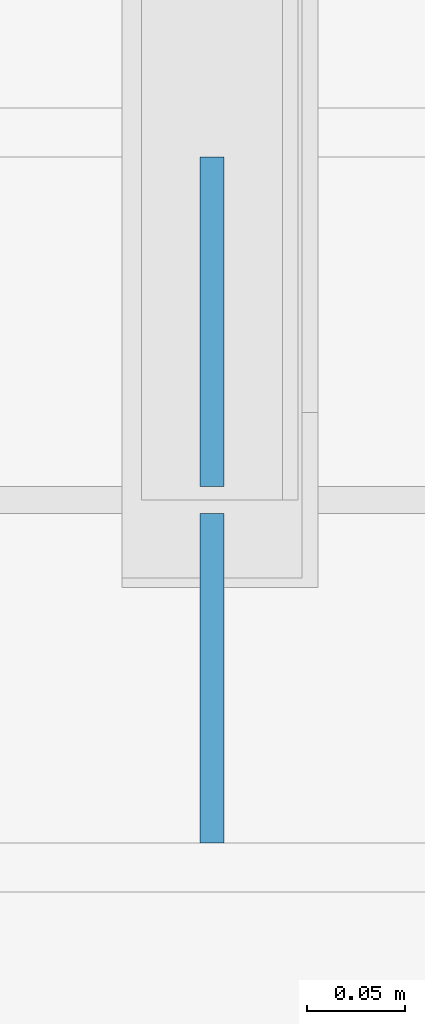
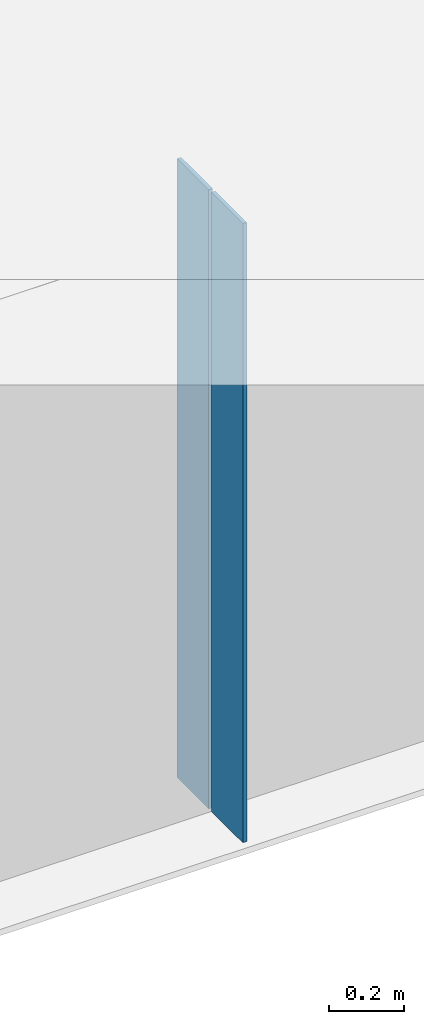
# One storey, part 6 of 17: 2 plates.
"""IFC4 building model written with IfcOpenShell, lengths in metres."""

from ifc_helpers import new_model, si_unit, frame, origin, origin_with_axes, origin_2d_with_axis, place, context, subcontext, project, spatial, rectangle, extrude, element, save


model = new_model("IFC4")

# Units and contexts
model_context = context("Model", 3, precision=1e-05, world=origin())
body_context = subcontext(model_context, "Body", "Model", "MODEL_VIEW")
ifc_project = project(units=[si_unit("LENGTHUNIT", "METRE"), si_unit("AREAUNIT", "SQUARE_METRE"), si_unit("VOLUMEUNIT", "CUBIC_METRE"), si_unit("PLANEANGLEUNIT", "RADIAN")], contexts=[model_context])

# Site, building, storey
site_placement = place(None, origin_with_axes())
site = spatial("IfcSite", under=ifc_project, at=site_placement, Name="Default Site")
building_placement = place(site_placement, origin_with_axes())
building = spatial("IfcBuilding", under=site, at=building_placement, Name="Bridge Structure")
storey_placement = place(building_placement, origin_with_axes())
storey = spatial("IfcBuildingStorey", under=building, at=storey_placement, Name="Superstructure")

# Plates
for number, where, z_axis, x_axis, name in (
    (1, (17.496, -5.409, -1.007), (0.0, 0.0, 1.0), (1.0, 0.0, 0.0), "Intermediate Stiffener 1"),
    (2, (17.496, -5.591, -1.007), (0.0, 0.0, 1.0), (1.0, 0.0, 0.0), "Intermediate Stiffener 1"),
):
    element("IfcPlate", number, at=place(storey_placement, frame(where, z_axis=z_axis, x_axis=x_axis)), inside=storey, Name=name, context=body_context, shape_type="SweptSolid", body=[
        extrude(rectangle(XDim=0.012, YDim=0.168, at=origin_2d_with_axis()), origin_with_axes(), (0.0, 0.0, 1.0), 2.014),
    ])

save(model, "model.ifc")
